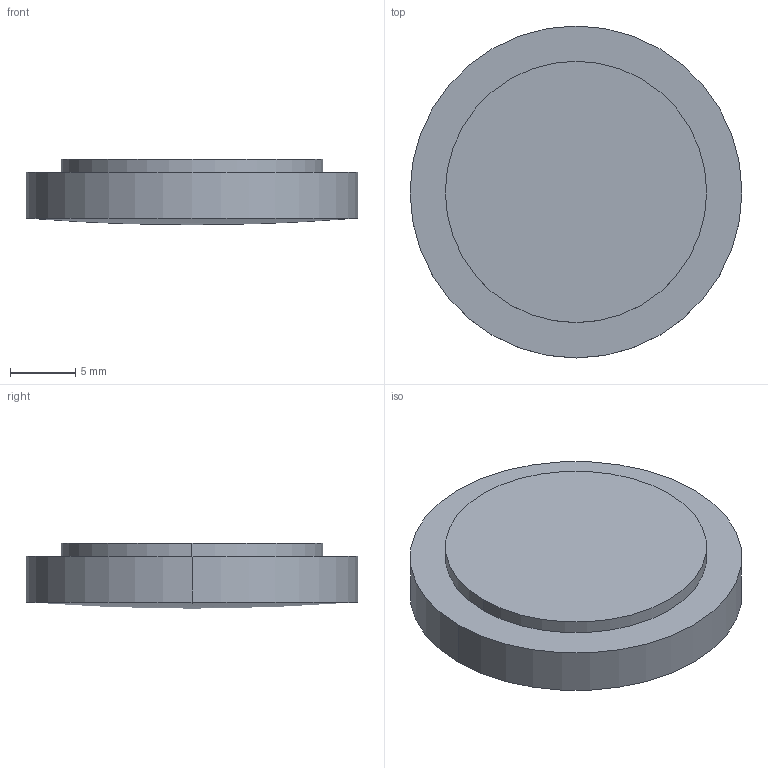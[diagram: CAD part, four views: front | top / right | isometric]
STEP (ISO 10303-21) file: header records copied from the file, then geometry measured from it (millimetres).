
FILE_DESCRIPTION(('STEP AP214'),'1');
FILE_NAME('LL-25-240.STEP','2020-03-09T17:41:09',(' '),(' '),'Spatial InterOp 3D',' ',' ');
FILE_SCHEMA(('AUTOMOTIVE_DESIGN { 1 0 10303 214 1 1 1 1 }'));
Length unit declared in the file: millimetre
Products named in the file (1): 1
Bounding box: 25.4 x 25.4 x 5 mm (x, y, z)
Volume: 2215.6 mm3; surface area: 1985 mm2
Topology: 2 solids, 2 shells, 9 faces, 16 edges, 9 vertices
Faces by surface type: cylinder 4, plane 3, sphere 2
Entity records: 229 total; most frequent: DIRECTION 46, CARTESIAN_POINT 34, ORIENTED_EDGE 28, AXIS2_PLACEMENT_3D 21, EDGE_CURVE 14, CIRCLE 10, ADVANCED_FACE 9, FACE_OUTER_BOUND 9
